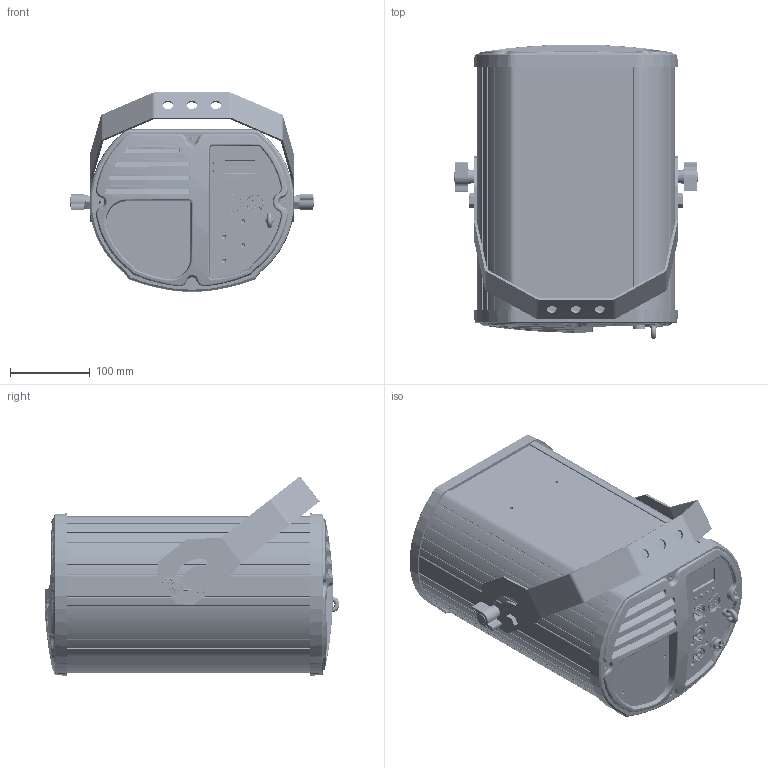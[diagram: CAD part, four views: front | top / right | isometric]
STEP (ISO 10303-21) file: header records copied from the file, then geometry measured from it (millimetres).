
FILE_DESCRIPTION((''),'2;1');
FILE_NAME('ELA-LS2R_ASM_ASM','2014-09-18T',('lijingxiong'),(''),'PRO/ENGINEER BY PARAMETRIC TECHNOLOGY CORPORATION, 2012310','PRO/ENGINEER BY PARAMETRIC TECHNOLOGY CORPORATION, 2012310','');
FILE_SCHEMA(('CONFIG_CONTROL_DESIGN'));
Products named in the file (328): MSBR-326; MSBR-325; MSBR-324; MSBR-323; MSBR-322; MSBR-321; MSBR-320; MSBR-319; MSBR-318; MSBR-317; MSBR-316; MSBR-315; MSBR-314; MSBR-313; MSBR-312; MSBR-311; MSBR-310; MSBR-309; MSBR-308; MSBR-307; MSBR-306; MSBR-305; MSBR-304; MSBR-303; MSBR-302; MSBR-301; MSBR-300; MSBR-299; MSBR-298; MSBR-297; MSBR-296; MSBR-295; MSBR-294; MSBR-293; MSBR-292; MSBR-291; MSBR-290; MSBR-289; MSBR-288; MSBR-287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
Assembly tree (327 placements, depth 3):
  ELA-LS2R_ASM_ASM
    ELA-LS2R_ASM_ASM_ASM
      MSBR-326
      MSBR-325
      MSBR-324
      MSBR-323
      MSBR-322
      MSBR-321
      MSBR-320
      MSBR-319
      MSBR-318
      MSBR-317
      MSBR-316
      MSBR-315
      MSBR-314
      MSBR-313
      MSBR-312
      MSBR-311
      MSBR-310
      MSBR-309
      MSBR-308
      MSBR-307
      MSBR-306
      MSBR-305
      MSBR-304
      MSBR-303
      MSBR-302
      MSBR-301
      MSBR-300
      MSBR-299
      MSBR-298
      MSBR-297
      MSBR-296
      MSBR-295
      MSBR-294
      MSBR-293
      MSBR-292
      MSBR-291
      MSBR-290
      MSBR-289
      MSBR-288
      MSBR-287
      MSBR-286
      MSBR-285
      MSBR-284
      MSBR-283
      MSBR-282
      MSBR-281
      MSBR-280
      MSBR-279
      MSBR-278
      MSBR-277
      MSBR-276
      MSBR-275
      MSBR-274
      MSBR-273
      MSBR-272
      MSBR-271
      MSBR-270
      MSBR-269
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Bounding box: 304.58 x 368.69 x 249.44 mm (x, y, z)
Volume: 2501693.6 mm3; surface area: 2111257.1 mm2
Topology: 326 solids, 326 shells, 10473 faces, 27853 edges, 17998 vertices
Faces by surface type: plane 4849, cylinder 4486, cone 548, bspline 328, torus 220, sphere 34, extrusion 8
Entity records: 380527 total; most frequent: CARTESIAN_POINT 107235, DIRECTION 57360, ORIENTED_EDGE 55640, EDGE_CURVE 27820, AXIS2_PLACEMENT_3D 21419, VERTEX_POINT 17998, VECTOR 14522, LINE 14514
